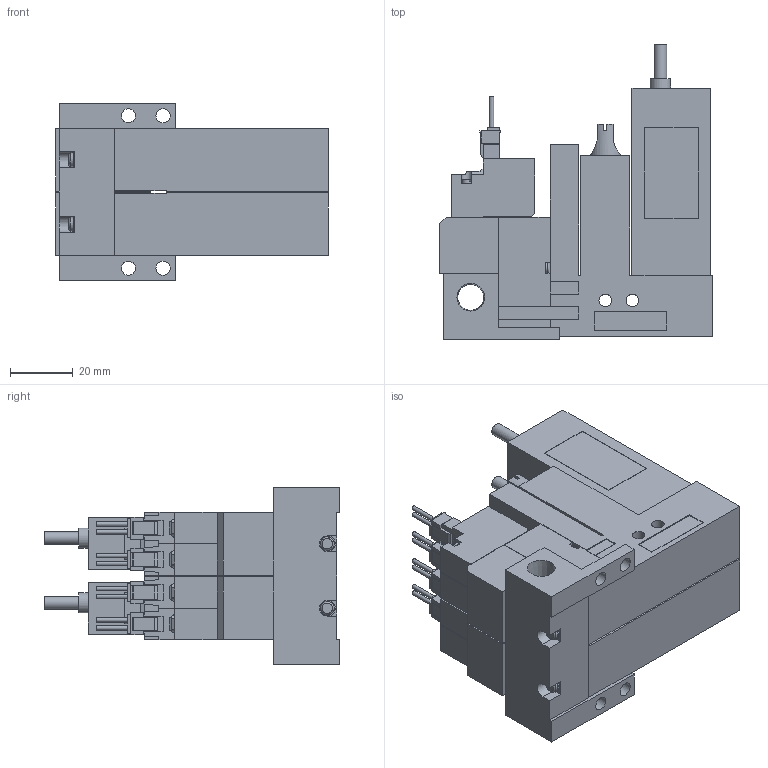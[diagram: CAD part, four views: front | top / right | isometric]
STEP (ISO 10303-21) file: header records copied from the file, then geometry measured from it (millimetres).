
FILE_DESCRIPTION(('STEP AP203'),'1');
FILE_NAME('VG_VGPL5BLR202.stp','2025-02-18T07:03:29',(' '),(' '),'Spatial InterOp 3D',' ',' ');
FILE_SCHEMA(('CONFIG_CONTROL_DESIGN'));
Length unit declared in the file: millimetre
Products named in the file (5): BMC22M※※※※VG_VGPL5BLR202; Solenoid valve B; Pressure sensor VGL; Unit L; Base MR20R
Assembly tree (7 placements, depth 2):
  BMC22M※※※※VG_VGPL5BLR202
    Solenoid valve B  x2
    Pressure sensor VGL  x2
    Unit L  x2
    Base MR20R
Bounding box: 86.6 x 94 x 56.5 mm (x, y, z)
Volume: 202440.2 mm3; surface area: 55592.8 mm2
Topology: 7 solids, 7 shells, 731 faces, 1959 edges, 1298 vertices
Faces by surface type: plane 614, cylinder 95, cone 16, torus 6
Full cylindrical faces by diameter (mm): 1.4 x8, 2.5 x6, 3 x8, 3.5 x8, 3.6 x2, 4 x12, 4.134 x2, 4.5 x4, 5.2 x2, 6 x2, 6.5 x2, 6.6 x2, 8.279 x1
Entity records: 12114 total; most frequent: CARTESIAN_POINT 2228, ORIENTED_EDGE 1940, DIRECTION 1922, EDGE_CURVE 970, LINE 808, VECTOR 808, VERTEX_POINT 673, AXIS2_PLACEMENT_3D 557
